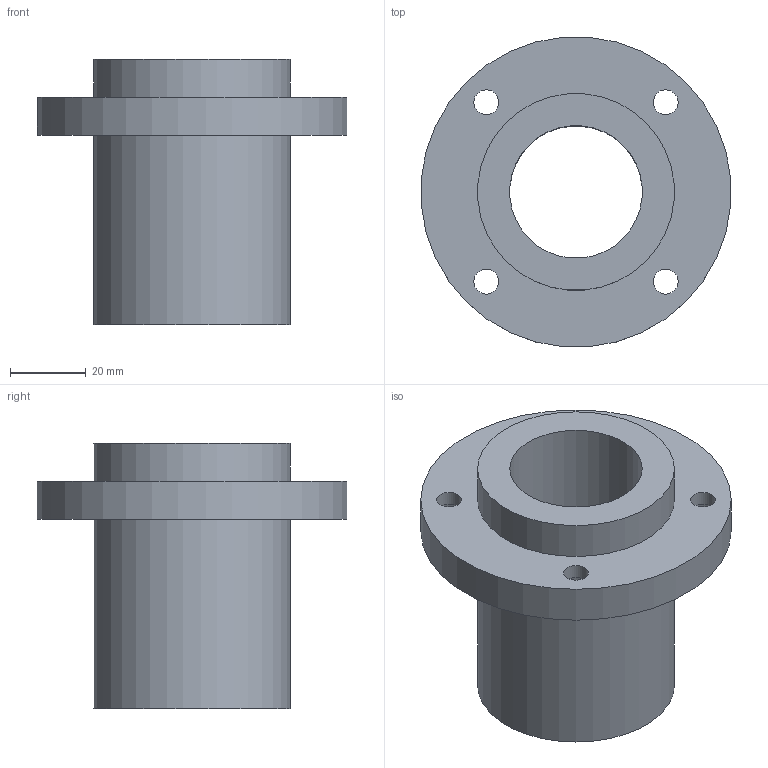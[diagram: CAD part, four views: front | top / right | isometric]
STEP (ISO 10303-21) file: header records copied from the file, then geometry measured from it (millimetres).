
FILE_DESCRIPTION(/* description */ (''),/* implementation_level */ '2;1');
FILE_NAME(/* name */ 'LMFP35UU',/* time_stamp */ '2019-07-03T11:33:43+02:00',/* author */ ('VĂ©gh MĂˇtĂ©'),/* organization */ ('Bearing Kft'),/* preprocessor_version */ 'ST-DEVELOPER v16.7',/* originating_system */ 'DEX',/* authorisation */ $);
FILE_SCHEMA (('AUTOMOTIVE_DESIGN {1 0 10303 214 3 1 1}'));
Length unit declared in the file: millimetre
Products named in the file (1): LMFP35UU
Bounding box: 81.69 x 81.69 x 70 mm (x, y, z)
Volume: 110023 mm3; surface area: 29640.1 mm2
Topology: 1 solids, 1 shells, 332 faces, 835 edges, 558 vertices
Faces by surface type: plane 255, bspline 63, cylinder 14
Full cylindrical faces by diameter (mm): 6.6 x4, 11 x4, 35 x1, 52 x2, 82 x1
Entity records: 13146 total; most frequent: CARTESIAN_POINT 5584, ORIENTED_EDGE 1636, DIRECTION 1260, EDGE_CURVE 818, LINE 664, VECTOR 664, VERTEX_POINT 554, EDGE_LOOP 408
